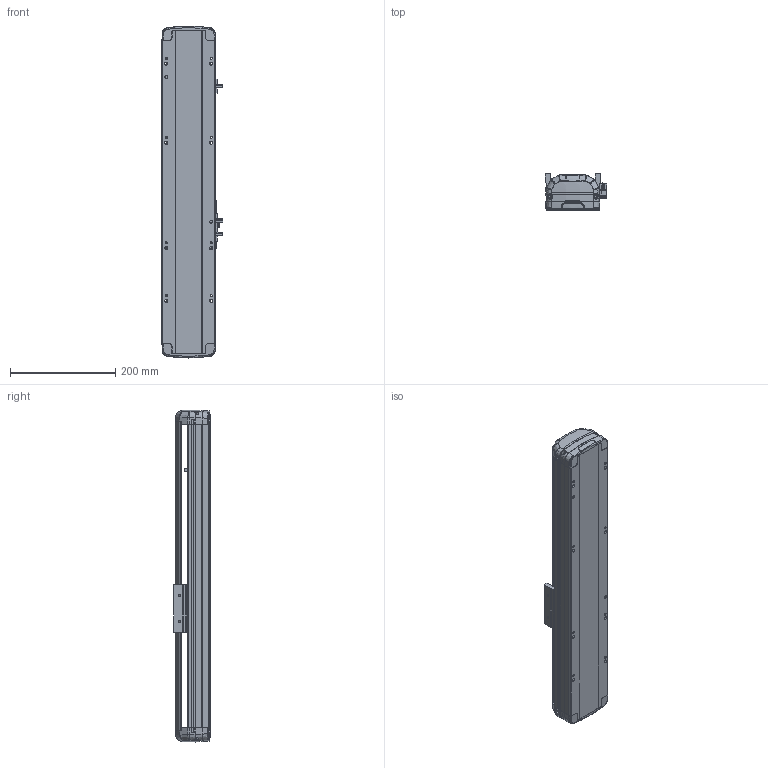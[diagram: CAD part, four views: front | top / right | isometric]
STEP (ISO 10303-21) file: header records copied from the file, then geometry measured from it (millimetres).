
FILE_DESCRIPTION (( 'STEP AP214' ), '1' );
FILE_NAME ('RTH10-XX-250-B-M10-C4.STEP', '2025-10-25T05:08:23', ( 'Microsoft' ), ( 'Microsoft' ), 'SwSTEP 2.0', 'SolidWorks 2018', '' );
FILE_SCHEMA (( 'AUTOMOTIVE_DESIGN' ));
Length unit declared in the file: millimetre
Products named in the file (7): N_RTH12-B-011P-臏倰第菁釱^RTH10-XX-XX-B-M10-C4; N_RTH12-B-007P-奻裔^RTH10-XX-XX-B-M10-C4; RTH10-XX-250-B-M10-C4; N_RTH12-GY-004-賑釱^RTH10-XX-XX-B-M10-C4; N_RTH12-GY-001P^RTH10-XX-XX-B-M10-C4; N_RTH13-L-012覜茼え俋离^RTH10-XX-XX-B-M10-C4; N_OMRON EE-SX672 传感器^RTH10-XX-XX-B-M10-C4
Assembly tree (9 placements, depth 2):
  RTH10-XX-250-B-M10-C4
    N_RTH12-B-011P-臏倰第菁釱^RTH10-XX-XX-B-M10-C4
    N_RTH13-L-012覜茼え俋离^RTH10-XX-XX-B-M10-C4
    N_OMRON EE-SX672 传感器^RTH10-XX-XX-B-M10-C4  x3
    N_RTH12-B-007P-奻裔^RTH10-XX-XX-B-M10-C4
    N_RTH12-GY-004-賑釱^RTH10-XX-XX-B-M10-C4
    N_RTH12-GY-001P^RTH10-XX-XX-B-M10-C4  x2
Bounding box: 116.5 x 70 x 629.61 mm (x, y, z)
Volume: 2402919.3 mm3; surface area: 417278.7 mm2
Topology: 7 solids, 11 shells, 2160 faces, 6034 edges, 3948 vertices
Faces by surface type: plane 1045, bspline 712, cylinder 383, cone 16, torus 4
Entity records: 47882 total; most frequent: CARTESIAN_POINT 21138, ORIENTED_EDGE 6196, DIRECTION 4282, EDGE_CURVE 3104, VERTEX_POINT 2035, VECTOR 1616, LINE 1616, AXIS2_PLACEMENT_3D 1333
